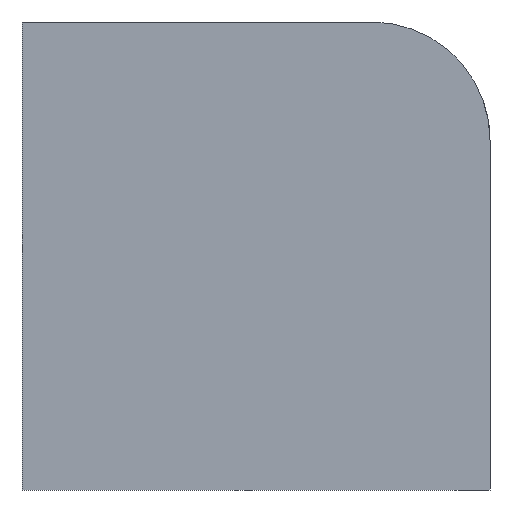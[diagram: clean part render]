
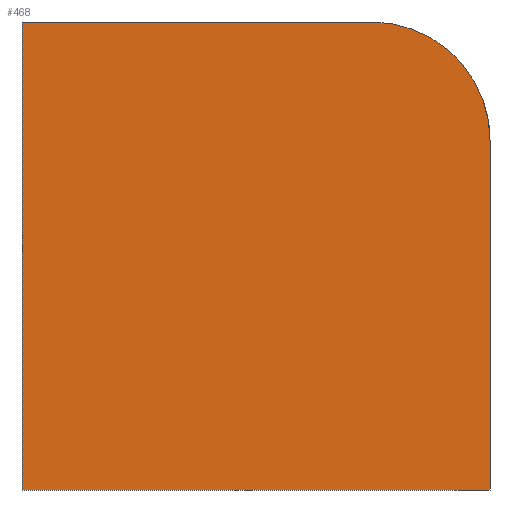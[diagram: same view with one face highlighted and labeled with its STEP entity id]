
A CAD part, front view. The second image highlights one B-rep face of the part: STEP entity #468.
In plain terms, the highlighted planar face has unit normal (0, -1, 0).
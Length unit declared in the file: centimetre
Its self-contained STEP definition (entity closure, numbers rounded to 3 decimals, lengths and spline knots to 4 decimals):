
#25 = DIRECTION ( 'NONE',  ( 0., -1., 0. ) ) ;
#33 = DIRECTION ( 'NONE',  ( 0., 1., 0. ) ) ;
#54 = VECTOR ( 'NONE', #298, 100. ) ;
#70 = ORIENTED_EDGE ( 'NONE', *, *, #373, .T. ) ;
#71 = CARTESIAN_POINT ( 'NONE',  ( 0., 0., 1000. ) ) ;
#108 = CIRCLE ( 'NONE', #683, 252.6543 ) ;
#166 = AXIS2_PLACEMENT_3D ( 'NONE', #665, #33, #594 ) ;
#187 = VERTEX_POINT ( 'NONE', #441 ) ;
#208 = DIRECTION ( 'NONE',  ( 0., 0., -1. ) ) ;
#209 = ORIENTED_EDGE ( 'NONE', *, *, #444, .F. ) ;
#231 = VECTOR ( 'NONE', #208, 100. ) ;
#247 = CARTESIAN_POINT ( 'NONE',  ( 0., 0., 0. ) ) ;
#250 = LINE ( 'NONE', #695, #633 ) ;
#270 = DIRECTION ( 'NONE',  ( 0., 0., -1. ) ) ;
#298 = DIRECTION ( 'NONE',  ( 1., 0., 0. ) ) ;
#322 = LINE ( 'NONE', #534, #692 ) ;
#349 = VERTEX_POINT ( 'NONE', #351 ) ;
#351 = CARTESIAN_POINT ( 'NONE',  ( 0., 0., 1000. ) ) ;
#353 = VERTEX_POINT ( 'NONE', #247 ) ;
#373 = EDGE_CURVE ( 'NONE', #698, #187, #108, .T. ) ;
#397 = CARTESIAN_POINT ( 'NONE',  ( 1000., 0., 747.3457 ) ) ;
#402 = EDGE_LOOP ( 'NONE', ( #209, #70, #417, #649, #701 ) ) ;
#405 = DIRECTION ( 'NONE',  ( 0., 0., 1. ) ) ;
#414 = EDGE_CURVE ( 'NONE', #353, #482, #250, .T. ) ;
#417 = ORIENTED_EDGE ( 'NONE', *, *, #443, .F. ) ;
#441 = CARTESIAN_POINT ( 'NONE',  ( 747.3457, 0., 1000. ) ) ;
#443 = EDGE_CURVE ( 'NONE', #349, #187, #575, .T. ) ;
#444 = EDGE_CURVE ( 'NONE', #698, #482, #516, .T. ) ;
#459 = CARTESIAN_POINT ( 'NONE',  ( 747.3457, 0., 747.3457 ) ) ;
#467 = DIRECTION ( 'NONE',  ( 1., 0., 0. ) ) ;
#468 = ADVANCED_FACE ( 'NONE', ( #540 ), #721, .F. ) ;
#482 = VERTEX_POINT ( 'NONE', #606 ) ;
#516 = LINE ( 'NONE', #714, #231 ) ;
#521 = EDGE_CURVE ( 'NONE', #349, #353, #322, .T. ) ;
#534 = CARTESIAN_POINT ( 'NONE',  ( 0., 0., 1000. ) ) ;
#540 = FACE_OUTER_BOUND ( 'NONE', #402, .T. ) ;
#575 = LINE ( 'NONE', #71, #54 ) ;
#594 = DIRECTION ( 'NONE',  ( 0., 0., 1. ) ) ;
#606 = CARTESIAN_POINT ( 'NONE',  ( 1000., 0., 0. ) ) ;
#633 = VECTOR ( 'NONE', #467, 100. ) ;
#649 = ORIENTED_EDGE ( 'NONE', *, *, #521, .T. ) ;
#665 = CARTESIAN_POINT ( 'NONE',  ( 0., 0., 1000. ) ) ;
#683 = AXIS2_PLACEMENT_3D ( 'NONE', #459, #25, #405 ) ;
#692 = VECTOR ( 'NONE', #270, 100. ) ;
#695 = CARTESIAN_POINT ( 'NONE',  ( 0., 0., 0. ) ) ;
#698 = VERTEX_POINT ( 'NONE', #397 ) ;
#701 = ORIENTED_EDGE ( 'NONE', *, *, #414, .T. ) ;
#714 = CARTESIAN_POINT ( 'NONE',  ( 1000., 0., 1000. ) ) ;
#721 = PLANE ( 'NONE',  #166 ) ;
